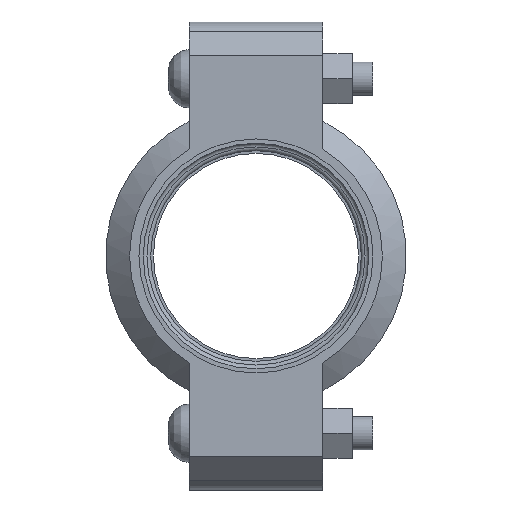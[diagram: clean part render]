
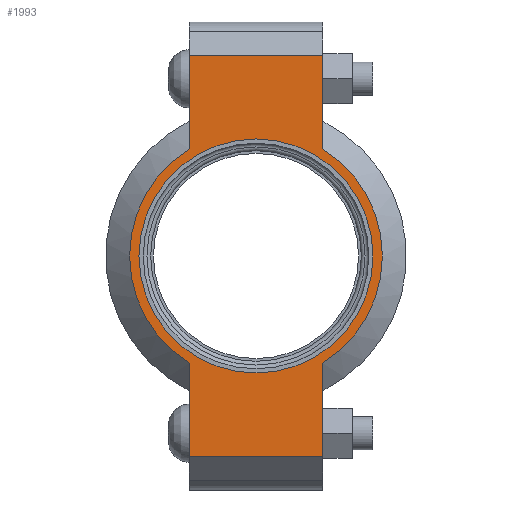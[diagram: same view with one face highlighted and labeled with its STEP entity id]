
A CAD part, left-side view. The second image highlights one B-rep face of the part: STEP entity #1993.
In plain terms, the highlighted planar face has unit normal (-1, 0, 0) as drawn and (0, 0, 1) by its records, which use the part's own axes.
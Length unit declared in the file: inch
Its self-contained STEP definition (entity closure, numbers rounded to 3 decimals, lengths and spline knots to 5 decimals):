
#126=LINE('',#3556,#225);
#134=LINE('',#3592,#233);
#141=LINE('',#3613,#240);
#150=LINE('',#3645,#249);
#151=LINE('',#3649,#250);
#152=LINE('',#3651,#251);
#225=VECTOR('',#2922,0.3937);
#233=VECTOR('',#2938,0.3937);
#240=VECTOR('',#2957,0.3937);
#249=VECTOR('',#2982,0.3937);
#250=VECTOR('',#2987,0.3937);
#251=VECTOR('',#2988,0.3937);
#311=FACE_BOUND('',#581,.T.);
#357=PLANE('',#2358);
#453=FACE_OUTER_BOUND('',#580,.T.);
#580=EDGE_LOOP('',(#1722,#1723,#1724,#1725,#1726,#1727,#1728,#1729));
#581=EDGE_LOOP('',(#1730));
#728=CIRCLE('',#2300,1.75);
#754=CIRCLE('',#2359,1.89);
#755=CIRCLE('',#2360,1.89);
#879=VERTEX_POINT('',#3372);
#922=VERTEX_POINT('',#3553);
#923=VERTEX_POINT('',#3555);
#934=VERTEX_POINT('',#3587);
#935=VERTEX_POINT('',#3591);
#942=VERTEX_POINT('',#3610);
#943=VERTEX_POINT('',#3612);
#953=VERTEX_POINT('',#3648);
#954=VERTEX_POINT('',#3650);
#1116=EDGE_CURVE('',#879,#879,#728,.T.);
#1177=EDGE_CURVE('',#923,#922,#126,.T.);
#1191=EDGE_CURVE('',#935,#934,#134,.T.);
#1201=EDGE_CURVE('',#943,#942,#141,.T.);
#1216=EDGE_CURVE('',#935,#922,#150,.T.);
#1217=EDGE_CURVE('',#934,#943,#754,.T.);
#1218=EDGE_CURVE('',#953,#942,#151,.T.);
#1219=EDGE_CURVE('',#953,#954,#152,.T.);
#1220=EDGE_CURVE('',#954,#923,#755,.T.);
#1722=ORIENTED_EDGE('',*,*,#1216,.F.);
#1723=ORIENTED_EDGE('',*,*,#1191,.T.);
#1724=ORIENTED_EDGE('',*,*,#1217,.T.);
#1725=ORIENTED_EDGE('',*,*,#1201,.T.);
#1726=ORIENTED_EDGE('',*,*,#1218,.F.);
#1727=ORIENTED_EDGE('',*,*,#1219,.T.);
#1728=ORIENTED_EDGE('',*,*,#1220,.T.);
#1729=ORIENTED_EDGE('',*,*,#1177,.T.);
#1730=ORIENTED_EDGE('',*,*,#1116,.T.);
#1993=ADVANCED_FACE('',(#453,#311),#357,.T.);
#2300=AXIS2_PLACEMENT_3D('',#3374,#2798,#2799);
#2358=AXIS2_PLACEMENT_3D('',#3646,#2983,#2984);
#2359=AXIS2_PLACEMENT_3D('',#3647,#2985,#2986);
#2360=AXIS2_PLACEMENT_3D('',#3652,#2989,#2990);
#2798=DIRECTION('center_axis',(0.,0.,-1.));
#2799=DIRECTION('ref_axis',(1.,0.,0.));
#2922=DIRECTION('',(1.,0.,0.));
#2938=DIRECTION('',(-1.,0.,0.));
#2957=DIRECTION('',(-1.,0.,0.));
#2982=DIRECTION('',(0.,-1.,0.));
#2983=DIRECTION('center_axis',(0.,0.,1.));
#2984=DIRECTION('ref_axis',(-1.,0.,0.));
#2985=DIRECTION('center_axis',(0.,0.,1.));
#2986=DIRECTION('ref_axis',(1.,0.,0.));
#2987=DIRECTION('',(0.,1.,0.));
#2988=DIRECTION('',(1.,0.,0.));
#2989=DIRECTION('center_axis',(0.,0.,1.));
#2990=DIRECTION('ref_axis',(1.,0.,0.));
#3372=CARTESIAN_POINT('',(-1.75,0.,0.94));
#3374=CARTESIAN_POINT('Origin',(0.,0.,0.94));
#3553=CARTESIAN_POINT('',(3.,-1.,0.94));
#3555=CARTESIAN_POINT('',(1.60378,-1.,0.94));
#3556=CARTESIAN_POINT('',(3.5,-1.,0.94));
#3587=CARTESIAN_POINT('',(1.60378,1.,0.94));
#3591=CARTESIAN_POINT('',(3.,1.,0.94));
#3592=CARTESIAN_POINT('',(-3.5,1.,0.94));
#3610=CARTESIAN_POINT('',(-3.,1.,0.94));
#3612=CARTESIAN_POINT('',(-1.60378,1.,0.94));
#3613=CARTESIAN_POINT('',(-3.5,1.,0.94));
#3645=CARTESIAN_POINT('',(3.,-0.5,0.94));
#3646=CARTESIAN_POINT('Origin',(0.,0.,
0.94));
#3647=CARTESIAN_POINT('Origin',(0.,0.,0.94));
#3648=CARTESIAN_POINT('',(-3.,-1.,0.94));
#3649=CARTESIAN_POINT('',(-3.,0.5,0.94));
#3650=CARTESIAN_POINT('',(-1.60378,-1.,0.94));
#3651=CARTESIAN_POINT('',(3.5,-1.,0.94));
#3652=CARTESIAN_POINT('Origin',(0.,0.,0.94));
